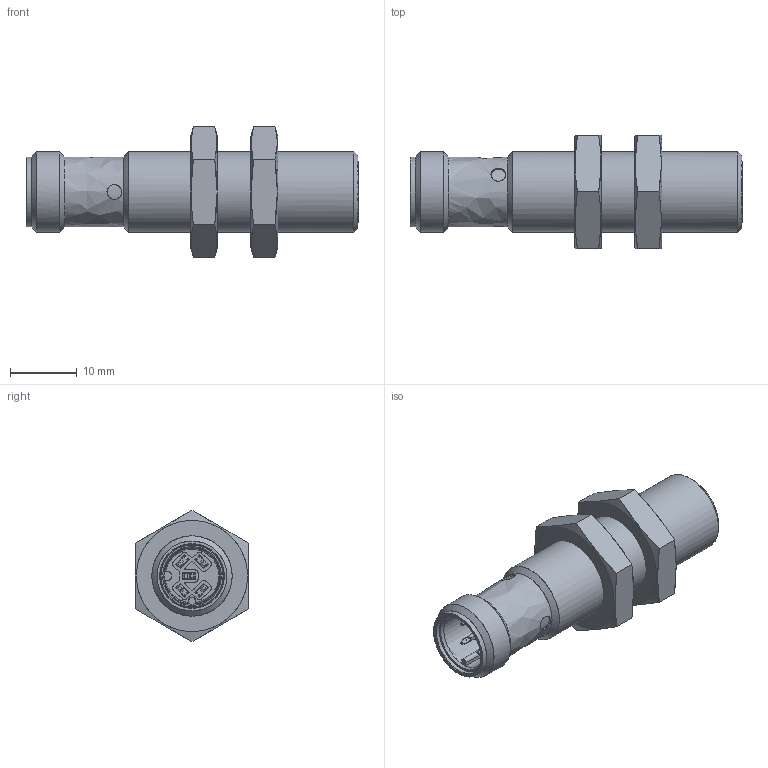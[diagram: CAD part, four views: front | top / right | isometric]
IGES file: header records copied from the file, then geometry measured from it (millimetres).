
Start section: C
Global section: file name: UR12.xxx-xxxx.7BF.igs; native system: By Siemens PLM Incorporated; preprocessor: XPlus GENERIC/IGES 23.0.61; author: Author; organization: Title; date: 20221223.135202; units: millimetre
Bounding box: 49.6 x 17 x 19.63 mm (x, y, z)
Surface area: 3901.7 mm2 (no closed solid volume)
Topology: 0 solids, 0 shells, 244 faces, 1322 edges, 1321 vertices
Faces by surface type: bspline 244
